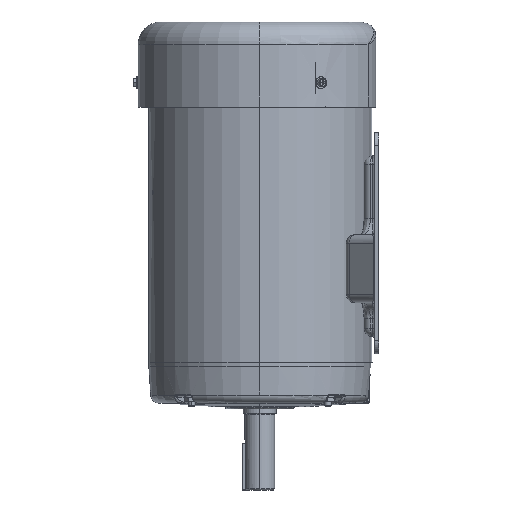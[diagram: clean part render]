
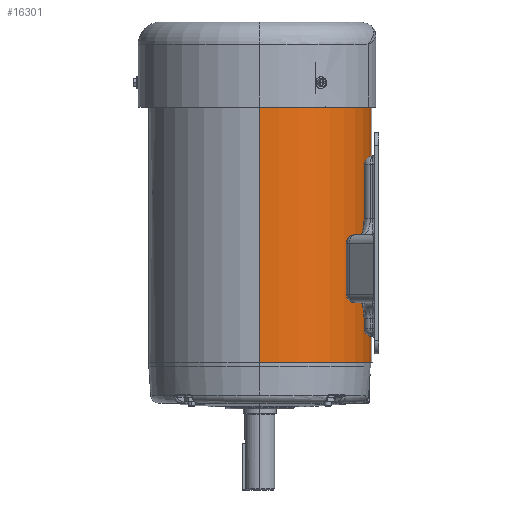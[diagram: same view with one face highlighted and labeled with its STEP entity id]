
A CAD part, left-side view. The second image highlights one B-rep face of the part: STEP entity #16301.
In plain terms, the highlighted cylindrical face has radius 82.868 mm (diameter 165.735 mm), a partial arc.
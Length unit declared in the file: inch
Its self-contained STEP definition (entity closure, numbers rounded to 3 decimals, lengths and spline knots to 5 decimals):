
#1879 = CIRCLE ( 'NONE', #28370, 3.2625 ) ;
#5601 = DIRECTION ( 'NONE',  ( 0., 0., 1. ) ) ;
#11066 = CARTESIAN_POINT ( 'NONE',  ( -3.2625, 0., 3.75 ) ) ;
#16301 = ADVANCED_FACE ( 'NONE', ( #60888 ), #59160, .T. ) ;
#19577 = CARTESIAN_POINT ( 'NONE',  ( 0., 0., 3.75 ) ) ;
#25235 = EDGE_CURVE ( 'NONE', #69954, #134195, #134813, .T. ) ;
#27187 = CARTESIAN_POINT ( 'NONE',  ( -3.2625, 0., -3.75 ) ) ;
#28370 = AXIS2_PLACEMENT_3D ( 'NONE', #19577, #94417, #30519 ) ;
#30519 = DIRECTION ( 'NONE',  ( 1., 0., 0. ) ) ;
#30625 = VECTOR ( 'NONE', #5601, 39.37008 ) ;
#37484 = DIRECTION ( 'NONE',  ( 0., 0., 1. ) ) ;
#39841 = VERTEX_POINT ( 'NONE', #69926 ) ;
#42344 = VECTOR ( 'NONE', #64742, 39.37008 ) ;
#45585 = EDGE_CURVE ( 'NONE', #69954, #47898, #55946, .T. ) ;
#45764 = LINE ( 'NONE', #106803, #42344 ) ;
#47898 = VERTEX_POINT ( 'NONE', #11066 ) ;
#55946 = LINE ( 'NONE', #70089, #30625 ) ;
#59049 = EDGE_LOOP ( 'NONE', ( #94674, #98412, #101970, #103005 ) ) ;
#59160 = CYLINDRICAL_SURFACE ( 'NONE', #82999, 3.2625 ) ;
#60888 = FACE_OUTER_BOUND ( 'NONE', #59049, .T. ) ;
#64742 = DIRECTION ( 'NONE',  ( 0., 0., 1. ) ) ;
#69926 = CARTESIAN_POINT ( 'NONE',  ( -0.09, -3.26126, 3.75 ) ) ;
#69954 = VERTEX_POINT ( 'NONE', #27187 ) ;
#70089 = CARTESIAN_POINT ( 'NONE',  ( -3.2625, 0., -3.75 ) ) ;
#82999 = AXIS2_PLACEMENT_3D ( 'NONE', #102404, #102308, #105141 ) ;
#87950 = EDGE_CURVE ( 'NONE', #134195, #39841, #45764, .T. ) ;
#90892 = AXIS2_PLACEMENT_3D ( 'NONE', #101202, #37484, #111834 ) ;
#94417 = DIRECTION ( 'NONE',  ( 0., 0., 1. ) ) ;
#94674 = ORIENTED_EDGE ( 'NONE', *, *, #45585, .F. ) ;
#98412 = ORIENTED_EDGE ( 'NONE', *, *, #25235, .T. ) ;
#99585 = CARTESIAN_POINT ( 'NONE',  ( -0.09, -3.26126, -3.75 ) ) ;
#101202 = CARTESIAN_POINT ( 'NONE',  ( 0., 0., -3.75 ) ) ;
#101970 = ORIENTED_EDGE ( 'NONE', *, *, #87950, .T. ) ;
#102308 = DIRECTION ( 'NONE',  ( 0., 0., 1. ) ) ;
#102404 = CARTESIAN_POINT ( 'NONE',  ( 0., 0., -3.75 ) ) ;
#103005 = ORIENTED_EDGE ( 'NONE', *, *, #111753, .F. ) ;
#105141 = DIRECTION ( 'NONE',  ( 1., 0., 0. ) ) ;
#106803 = CARTESIAN_POINT ( 'NONE',  ( -0.09, -3.26126, -3.75 ) ) ;
#111753 = EDGE_CURVE ( 'NONE', #47898, #39841, #1879, .T. ) ;
#111834 = DIRECTION ( 'NONE',  ( 1., 0., 0. ) ) ;
#134195 = VERTEX_POINT ( 'NONE', #99585 ) ;
#134813 = CIRCLE ( 'NONE', #90892, 3.2625 ) ;
